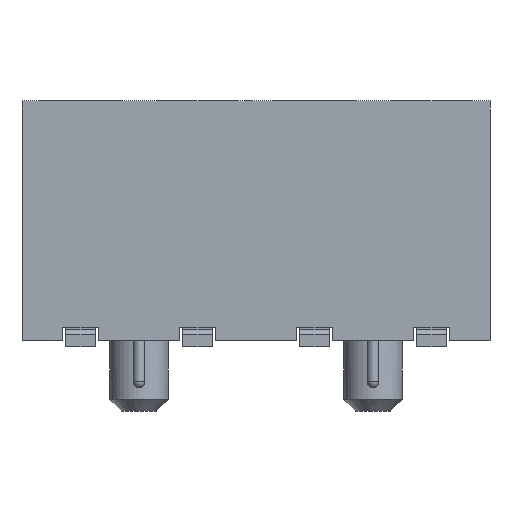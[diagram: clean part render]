
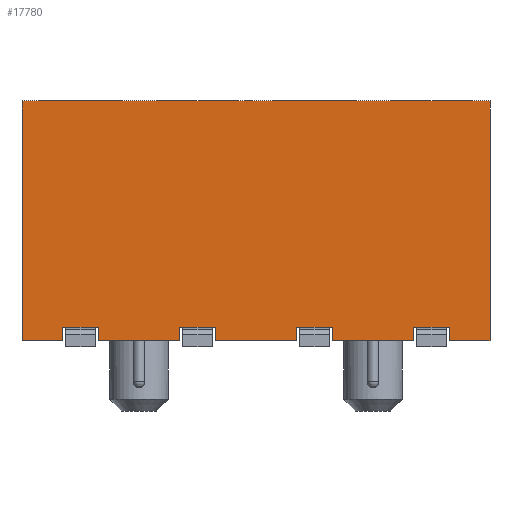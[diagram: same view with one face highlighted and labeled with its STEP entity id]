
A CAD part, front view. The second image highlights one B-rep face of the part: STEP entity #17780.
In plain terms, the highlighted planar face has unit normal (0, -1, 0).
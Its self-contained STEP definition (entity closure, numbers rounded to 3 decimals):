
#1180=CARTESIAN_POINT('',(1.6,-1.813,-7.4));
#1190=DIRECTION('',(1.,0.,0.));
#1200=VECTOR('',#1190,1.);
#1210=LINE('',#1180,#1200);
#1220=CARTESIAN_POINT('',(8.9,-1.813,-7.4));
#1230=VERTEX_POINT('',#1220);
#1240=CARTESIAN_POINT('',(9.6,-1.813,-7.4));
#1250=VERTEX_POINT('',#1240);
#1260=EDGE_CURVE('',#1230,#1250,#1210,.T.);
#1660=CARTESIAN_POINT('',(8.9,-1.813,-7.17));
#1670=VERTEX_POINT('',#1660);
#1700=CARTESIAN_POINT('',(8.9,-1.813,-7.4));
#1710=DIRECTION('',(0.,0.,-1.));
#1720=VECTOR('',#1710,1.);
#1730=LINE('',#1700,#1720);
#1740=EDGE_CURVE('',#1670,#1230,#1730,.T.);
#4870=CARTESIAN_POINT('',(6.,-1.813,-7.17));
#4880=DIRECTION('',(1.,0.,0.));
#4890=VECTOR('',#4880,1.);
#4900=LINE('',#4870,#4890);
#4910=CARTESIAN_POINT('',(8.3,-1.813,-7.17));
#4920=VERTEX_POINT('',#4910);
#4930=EDGE_CURVE('',#4920,#1670,#4900,.T.);
#5130=CARTESIAN_POINT('',(8.3,-1.813,-7.4));
#5140=DIRECTION('',(0.,0.,1.));
#5150=VECTOR('',#5140,1.);
#5160=LINE('',#5130,#5150);
#5170=CARTESIAN_POINT('',(8.3,-1.813,-7.4));
#5180=VERTEX_POINT('',#5170);
#5190=EDGE_CURVE('',#5180,#4920,#5160,.T.);
#9210=CARTESIAN_POINT('',(6.9,-1.813,-7.17));
#9220=VERTEX_POINT('',#9210);
#9250=CARTESIAN_POINT('',(6.9,-1.813,-7.4));
#9260=DIRECTION('',(0.,0.,1.));
#9270=VECTOR('',#9260,1.);
#9280=LINE('',#9250,#9270);
#9290=CARTESIAN_POINT('',(6.9,-1.813,-7.4));
#9300=VERTEX_POINT('',#9290);
#9310=EDGE_CURVE('',#9300,#9220,#9280,.T.);
#16250=CARTESIAN_POINT('',(9.6,-1.813,-7.4));
#16260=DIRECTION('',(0.,0.,1.));
#16270=VECTOR('',#16260,1.);
#16280=LINE('',#16250,#16270);
#16290=CARTESIAN_POINT('',(9.6,-1.813,-3.3));
#16300=VERTEX_POINT('',#16290);
#16310=EDGE_CURVE('',#1250,#16300,#16280,.T.);
#16650=CARTESIAN_POINT('',(-12.4,-1.813,-7.4));
#16660=DIRECTION('',(-0.,1.,0.));
#16670=DIRECTION('',(1.,0.,0.));
#16680=AXIS2_PLACEMENT_3D('',#16650,#16660,#16670);
#16690=PLANE('',#16680);
#16700=ORIENTED_EDGE('',*,*,#16310,.T.);
#16710=ORIENTED_EDGE('',*,*,#1260,.T.);
#16720=ORIENTED_EDGE('',*,*,#1740,.T.);
#16730=ORIENTED_EDGE('',*,*,#4930,.T.);
#16740=ORIENTED_EDGE('',*,*,#5190,.T.);
#16750=EDGE_CURVE('',#9300,#5180,#1210,.T.);
#16760=ORIENTED_EDGE('',*,*,#16750,.T.);
#16770=ORIENTED_EDGE('',*,*,#9310,.F.);
#16780=CARTESIAN_POINT('',(4.,-1.813,-7.17));
#16790=DIRECTION('',(-1.,0.,0.));
#16800=VECTOR('',#16790,1.);
#16810=LINE('',#16780,#16800);
#16820=CARTESIAN_POINT('',(6.3,-1.813,-7.17));
#16830=VERTEX_POINT('',#16820);
#16840=EDGE_CURVE('',#9220,#16830,#16810,.T.);
#16850=ORIENTED_EDGE('',*,*,#16840,.F.);
#16860=CARTESIAN_POINT('',(6.3,-1.813,-7.4));
#16870=DIRECTION('',(0.,0.,-1.));
#16880=VECTOR('',#16870,1.);
#16890=LINE('',#16860,#16880);
#16900=CARTESIAN_POINT('',(6.3,-1.813,-7.4));
#16910=VERTEX_POINT('',#16900);
#16920=EDGE_CURVE('',#16830,#16910,#16890,.T.);
#16930=ORIENTED_EDGE('',*,*,#16920,.F.);
#16940=CARTESIAN_POINT('',(-2.4,-1.813,-7.4));
#16950=DIRECTION('',(1.,0.,0.));
#16960=VECTOR('',#16950,1.);
#16970=LINE('',#16940,#16960);
#16980=CARTESIAN_POINT('',(4.9,-1.813,-7.4));
#16990=VERTEX_POINT('',#16980);
#17000=EDGE_CURVE('',#16990,#16910,#16970,.T.);
#17010=ORIENTED_EDGE('',*,*,#17000,.T.);
#17020=CARTESIAN_POINT('',(4.9,-1.813,-7.4));
#17030=DIRECTION('',(0.,0.,1.));
#17040=VECTOR('',#17030,1.);
#17050=LINE('',#17020,#17040);
#17060=CARTESIAN_POINT('',(4.9,-1.813,-7.17));
#17070=VERTEX_POINT('',#17060);
#17080=EDGE_CURVE('',#16990,#17070,#17050,.T.);
#17090=ORIENTED_EDGE('',*,*,#17080,.F.);
#17100=CARTESIAN_POINT('',(6.,-1.813,-7.17));
#17110=DIRECTION('',(-1.,0.,0.));
#17120=VECTOR('',#17110,1.);
#17130=LINE('',#17100,#17120);
#17140=CARTESIAN_POINT('',(4.3,-1.813,-7.17));
#17150=VERTEX_POINT('',#17140);
#17160=EDGE_CURVE('',#17070,#17150,#17130,.T.);
#17170=ORIENTED_EDGE('',*,*,#17160,.F.);
#17180=CARTESIAN_POINT('',(4.3,-1.813,-7.4));
#17190=DIRECTION('',(0.,0.,-1.));
#17200=VECTOR('',#17190,1.);
#17210=LINE('',#17180,#17200);
#17220=CARTESIAN_POINT('',(4.3,-1.813,-7.4));
#17230=VERTEX_POINT('',#17220);
#17240=EDGE_CURVE('',#17150,#17230,#17210,.T.);
#17250=ORIENTED_EDGE('',*,*,#17240,.F.);
#17260=CARTESIAN_POINT('',(1.6,-1.813,-7.4));
#17270=DIRECTION('',(1.,0.,0.));
#17280=VECTOR('',#17270,1.);
#17290=LINE('',#17260,#17280);
#17300=CARTESIAN_POINT('',(2.9,-1.813,-7.4));
#17310=VERTEX_POINT('',#17300);
#17320=EDGE_CURVE('',#17310,#17230,#17290,.T.);
#17330=ORIENTED_EDGE('',*,*,#17320,.T.);
#17340=CARTESIAN_POINT('',(2.9,-1.813,-7.4));
#17350=DIRECTION('',(0.,0.,-1.));
#17360=VECTOR('',#17350,1.);
#17370=LINE('',#17340,#17360);
#17380=CARTESIAN_POINT('',(2.9,-1.813,-7.17));
#17390=VERTEX_POINT('',#17380);
#17400=EDGE_CURVE('',#17390,#17310,#17370,.T.);
#17410=ORIENTED_EDGE('',*,*,#17400,.T.);
#17420=CARTESIAN_POINT('',(6.,-1.813,-7.17));
#17430=DIRECTION('',(1.,0.,0.));
#17440=VECTOR('',#17430,1.);
#17450=LINE('',#17420,#17440);
#17460=CARTESIAN_POINT('',(2.3,-1.813,-7.17));
#17470=VERTEX_POINT('',#17460);
#17480=EDGE_CURVE('',#17470,#17390,#17450,.T.);
#17490=ORIENTED_EDGE('',*,*,#17480,.T.);
#17500=CARTESIAN_POINT('',(2.3,-1.813,-7.4));
#17510=DIRECTION('',(0.,0.,1.));
#17520=VECTOR('',#17510,1.);
#17530=LINE('',#17500,#17520);
#17540=CARTESIAN_POINT('',(2.3,-1.813,-7.4));
#17550=VERTEX_POINT('',#17540);
#17560=EDGE_CURVE('',#17550,#17470,#17530,.T.);
#17570=ORIENTED_EDGE('',*,*,#17560,.T.);
#17580=CARTESIAN_POINT('',(1.6,-1.813,-7.4));
#17590=VERTEX_POINT('',#17580);
#17600=EDGE_CURVE('',#17590,#17550,#17290,.T.);
#17610=ORIENTED_EDGE('',*,*,#17600,.T.);
#17620=CARTESIAN_POINT('',(1.6,-1.813,-7.4));
#17630=DIRECTION('',(0.,0.,1.));
#17640=VECTOR('',#17630,1.);
#17650=LINE('',#17620,#17640);
#17660=CARTESIAN_POINT('',(1.6,-1.813,-3.3));
#17670=VERTEX_POINT('',#17660);
#17680=EDGE_CURVE('',#17590,#17670,#17650,.T.);
#17690=ORIENTED_EDGE('',*,*,#17680,.F.);
#17700=CARTESIAN_POINT('',(-4.4,-1.813,-3.3));
#17710=DIRECTION('',(1.,0.,0.));
#17720=VECTOR('',#17710,1.);
#17730=LINE('',#17700,#17720);
#17740=EDGE_CURVE('',#17670,#16300,#17730,.T.);
#17750=ORIENTED_EDGE('',*,*,#17740,.F.);
#17760=EDGE_LOOP('',(#17750,#17690,#17610,#17570,#17490,#17410,#17330,
#17250,#17170,#17090,#17010,#16930,#16850,#16770,#16760,#16740,#16730,
#16720,#16710,#16700));
#17770=FACE_OUTER_BOUND('',#17760,.T.);
#17780=ADVANCED_FACE('',(#17770),#16690,.F.);
